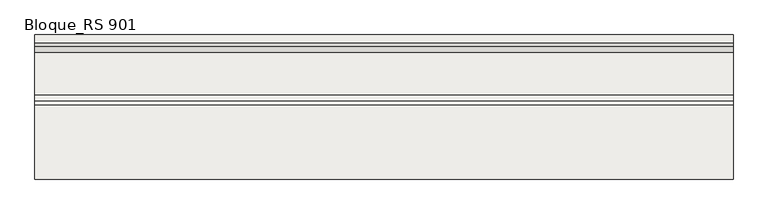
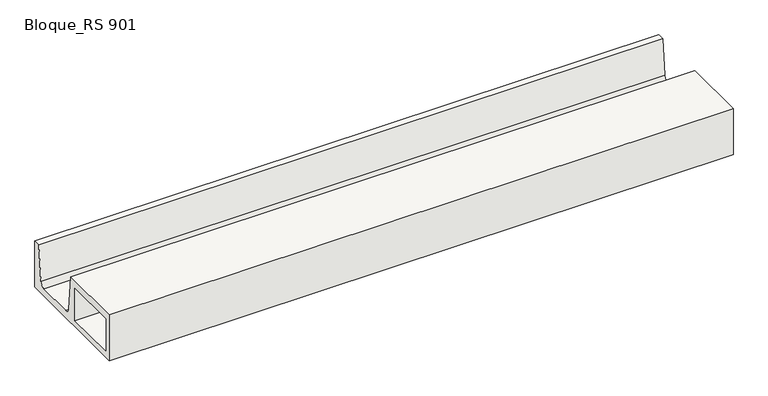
"""IFC4 building model written with IfcOpenShell, lengths in millimetres: slab geometry, ROSA GRES_RS 901 : Bloque_RS 901."""

from ifc_helpers import new_model, si_unit, point, frame, frame_2d, origin, place, context, project, spatial, polyline, circle_curve, trimmed, segment, composite_curve, outline, extrude, source, transform, mapped, element, save


def bloque_rs_901_a1e74918(model_context):
    return source(origin(), model_context, "Body", "SweptSolid", [
        extrude(outline(composite_curve([segment(polyline([(12.836227, 188.7539108), (268.704852, 188.7539108), (282.2408556, 49.1487962)]), True, "CONTINUOUS"), segment(trimmed(circle_curve(frame_2d((301.8831862, 51.599206)), 19.7945866), [point((282.2408556, 49.1487962))], [point((302.2746005, 31.8084896))], True, "CARTESIAN"), True, "CONTINUOUS"), segment(polyline([(302.2746005, 31.8084896), (448.3978535, 31.8084896)]), True, "CONTINUOUS"), segment(trimmed(circle_curve(frame_2d((448.7892677, 51.599206)), 19.7945866), [point((448.3978535, 31.8084896))], [point((468.4315983, 49.1487962))], True, "CARTESIAN"), True, "CONTINUOUS"), segment(polyline([(468.4315983, 49.1487962), (481.967602, 188.7539108), (508.836227, 188.7539108), (508.836227, 1.7539108), (12.836227, 1.7539108), (12.836227, 188.7539108)]), True, "CONTINUOUS")], self_intersect=False), holes=[polyline([(241.836227, 158.7539108), (37.836227, 158.7539108), (37.836227, 26.7539108), (241.836227, 26.7539108), (241.836227, 158.7539108)])]), frame((0.0, 0.0, 0.0), z_axis=(1.0, 0.0, 0.0), x_axis=(0.0, 1.0, 0.0)), (0.0, 0.0, 1.0), 2402.5),
    ])


if __name__ == "__main__":
    model = new_model("IFC4")
    model_context = context("Model", 3, world=origin())
    ifc_project = project(units=[si_unit("LENGTHUNIT", "METRE", prefix="MILLI")], contexts=[model_context])
    site = spatial("IfcSite", under=ifc_project)
    building = spatial("IfcBuilding", under=site)
    placement = place(None, origin())
    bloque_rs_901_shape = bloque_rs_901_a1e74918(model_context)
    element("IfcSlab", 1, ObjectType="ROSA GRES_RS 901 : Bloque_RS 901", at=placement, inside=building, context=model_context, shape_type="MappedRepresentation", body=[
        mapped(bloque_rs_901_shape, transform((0.0, 0.0, 0.0), x_axis=(1.0, 0.0, 0.0), y_axis=(0.0, 1.0, 0.0), z_axis=(0.0, 0.0, 1.0))),
    ])
    save(model, "model.ifc")
